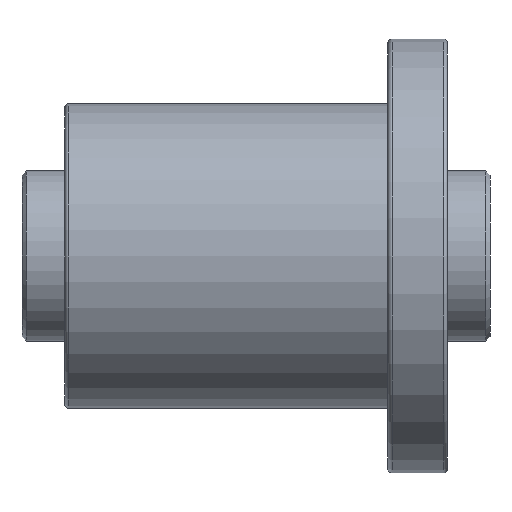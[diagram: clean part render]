
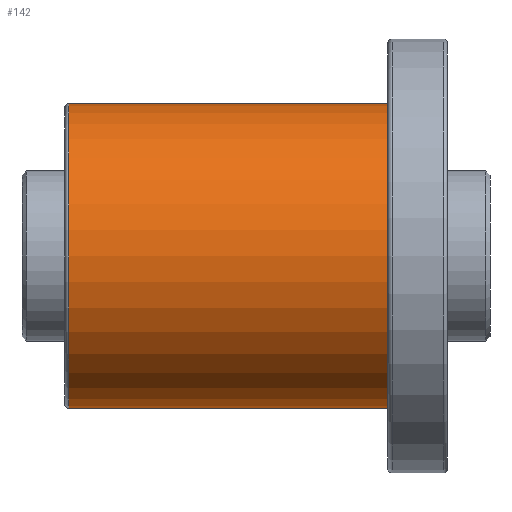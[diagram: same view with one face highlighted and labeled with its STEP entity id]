
A CAD part, front view. The second image highlights one B-rep face of the part: STEP entity #142.
In plain terms, the highlighted cylindrical face has radius 71.5 mm (diameter 143 mm), a full revolution.
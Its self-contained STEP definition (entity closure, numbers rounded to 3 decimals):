
#109=CYLINDRICAL_SURFACE('',#670,71.5);
#142=ADVANCED_FACE('',(#241,#242),#109,.T.);
#241=FACE_BOUND('',#325,.T.);
#242=FACE_BOUND('',#326,.T.);
#325=EDGE_LOOP('',(#423));
#326=EDGE_LOOP('',(#424));
#423=ORIENTED_EDGE('',*,*,#541,.F.);
#424=ORIENTED_EDGE('',*,*,#558,.T.);
#492=VERTEX_POINT('',#930);
#509=VERTEX_POINT('',#975);
#541=EDGE_CURVE('',#492,#492,#590,.T.);
#558=EDGE_CURVE('',#509,#509,#607,.T.);
#590=CIRCLE('',#640,71.5);
#607=CIRCLE('',#668,71.5);
#640=AXIS2_PLACEMENT_3D('',#929,#742,#743);
#668=AXIS2_PLACEMENT_3D('',#974,#798,#799);
#670=AXIS2_PLACEMENT_3D('',#977,#802,#803);
#742=DIRECTION('',(1.,0.,0.));
#743=DIRECTION('',(0.,0.,-1.));
#798=DIRECTION('',(1.,0.,0.));
#799=DIRECTION('',(0.,0.,-1.));
#802=DIRECTION('',(1.,0.,0.));
#803=DIRECTION('',(0.,0.,-1.));
#929=CARTESIAN_POINT('',(-48.,0.,0.));
#930=CARTESIAN_POINT('',(-48.,0.,-71.5));
#974=CARTESIAN_POINT('',(-198.,0.,0.));
#975=CARTESIAN_POINT('',(-198.,0.,-71.5));
#977=CARTESIAN_POINT('',(-220.,0.,0.));
